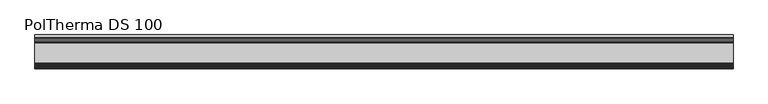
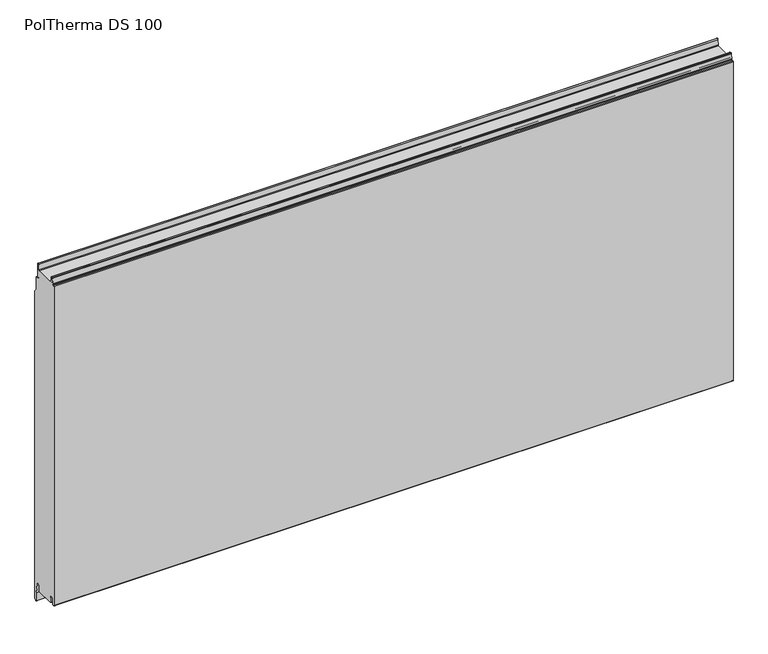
"""IFC4 building model written with IfcOpenShell, lengths in millimetres: plate geometry, Europanels_Poltherma DS_Hz : PolTherma DS 100."""

from ifc_helpers import new_model, si_unit, frame, origin, place, context, project, spatial, polyline, circle_curve, source, transform, mapped, element, save
from ifc_brep_helpers import plane_surface, cylinder_surface, revolved_surface, advanced_brep


def poltherma_ds_100_a860b07c(model_context):
    return source(origin(), model_context, "Body", "AdvancedBrep", [
        advanced_brep(
        [(1025.0, 50.0, 25.6419265), (1025.0, 50.0, 1006.0403652), (1025.0, 41.9993224, 1014.5306815), (1025.0, 41.9993224, 1053.783709), (1025.0, 39.5003388, 1056.2826927), (1025.0, 36.4964005, 1056.2826927), (1025.0, 33.9927587, 1058.7863345), (1025.0, 33.9927587, 1102.0320728), (1025.0, 31.7320949, 1104.2927366), (1025.0, 29.3625931, 1102.12865), (1025.0, 28.6828547, 1085.5928147), (1025.0, 26.3196392, 1083.2879082), (1025.0, -31.7227962, 1081.7845566), (1025.0, -33.7207985, 1083.6951741), (1025.0, -34.4459609, 1099.8739391), (1025.0, -36.4439626, 1101.784556), (1025.0, -39.1932037, 1101.784556), (1025.0, -41.1890147, 1099.9139331), (1025.0, -42.2429781, 1083.6551788), (1025.0, -44.2387891, 1081.784556), (1025.0, -48.0, 1081.784556), (1025.0, -50.0, 1079.784556), (1025.0, -50.0, 61.7823467), (1025.0, -48.0, 59.7823467), (1025.0, -45.2728415, 59.7823467), (1025.0, -43.283254, 61.5785287), (1025.0, -42.3087485, 79.5912504), (1025.0, -39.3243673, 82.2855234), (1025.0, -36.3756985, 82.2855234), (1025.0, -33.3927633, 79.6050511), (1025.0, -32.3401385, 61.3459555), (1025.0, -30.600093, 59.7823467), (1025.0, 25.1828499, 58.2823467), (1025.0, 27.6811293, 60.6896109), (1025.0, 28.3408974, 78.4636008), (1025.0, 30.834547, 80.7855234), (1025.0, 34.241537, 80.7855234), (1025.0, 36.5910205, 79.139881), (1025.0, 43.0, 46.1009555), (1025.0, 43.0, 20.9596348), (1025.0, 46.7337298, 19.9625485), (-1025.0, 50.0, 25.6419265), (-1025.0, 46.7337298, 19.9625485), (-1025.0, 43.0, 20.9596348), (-1025.0, 43.0, 46.1009555), (-1025.0, 36.5910205, 79.139881), (-1025.0, 34.241537, 80.7855234), (-1025.0, 30.834547, 80.7855234), (-1025.0, 28.3408974, 78.4636008), (-1025.0, 27.6811293, 60.6896109), (-1025.0, 25.1828499, 58.2823467), (-1025.0, -30.600093, 59.7823467), (-1025.0, -32.3401385, 61.3459555), (-1025.0, -33.3927633, 79.6050511), (-1025.0, -36.3756985, 82.2855234), (-1025.0, -39.3243673, 82.2855234), (-1025.0, -42.3087485, 79.5912504), (-1025.0, -43.283254, 61.5785287), (-1025.0, -45.2728415, 59.7823467), (-1025.0, -48.0, 59.7823467), (-1025.0, -50.0, 61.7823467), (-1025.0, -50.0, 1079.784556), (-1025.0, -48.0, 1081.784556), (-1025.0, -44.2387891, 1081.784556), (-1025.0, -42.2429781, 1083.6551788), (-1025.0, -41.1890147, 1099.9139331), (-1025.0, -39.1932037, 1101.784556), (-1025.0, -36.4439626, 1101.784556), (-1025.0, -34.4459609, 1099.8739391), (-1025.0, -33.7221833, 1083.6951728), (-1025.0, -31.7227962, 1081.7845566), (-1025.0, 26.3196392, 1083.2879082), (-1025.0, 28.6828547, 1085.5928147), (-1025.0, 29.3363956, 1102.1234406), (-1025.0, 31.7320949, 1104.2927366), (-1025.0, 33.9927587, 1102.0320728), (-1025.0, 33.9927587, 1058.7863345), (-1025.0, 36.4964005, 1056.2826927), (-1025.0, 39.5003388, 1056.2826927), (-1025.0, 41.9993224, 1053.783709), (-1025.0, 41.9993224, 1014.5306815), (-1025.0, 50.0, 1006.0403652)],
        [
            (0, 1),
            (1, 2),
            (2, 3),
            (3, 4, circle_curve(frame((1025.0, 39.5003388, 1053.783709), z_axis=(1.0, 0.0, 0.0), x_axis=(0.0, 1.0, 0.0)), 2.4989837)),
            (4, 5),
            (5, 6, circle_curve(frame((1025.0, 36.4964005, 1058.7863345), z_axis=(-1.0, 0.0, 0.0), x_axis=(0.0, 1.0, 0.0)), 2.5036418)),
            (6, 7),
            (7, 8, circle_curve(frame((1025.0, 31.7320949, 1102.0320728), z_axis=(1.0, 0.0, 0.0), x_axis=(0.0, 1.0, 0.0)), 2.2606638)),
            (8, 9, circle_curve(frame((1025.0, 31.6169847, 1102.0395223), z_axis=(1.0, 0.0, 0.0), x_axis=(0.0, 1.0, 0.0)), 2.2561527)),
            (9, 10),
            (10, 11, circle_curve(frame((1025.0, 26.1902185, 1085.784556), z_axis=(-1.0, 0.0, 0.0), x_axis=(0.0, 1.0, 0.0)), 2.5)),
            (11, 12),
            (12, 13, circle_curve(frame((1025.0, -31.7227962, 1083.7845572), z_axis=(-1.0, 0.0, 0.0), x_axis=(0.0, 1.0, 0.0)), 2.0000006)),
            (13, 14),
            (14, 15, circle_curve(frame((1025.0, -36.4439626, 1099.784556), z_axis=(1.0, 0.0, 0.0), x_axis=(0.0, 1.0, 0.0)), 2.0)),
            (15, 16),
            (16, 17, circle_curve(frame((1025.0, -39.1932037, 1099.784556), z_axis=(1.0, 0.0, 0.0), x_axis=(0.0, 1.0, 0.0)), 2.0)),
            (17, 18),
            (18, 19, circle_curve(frame((1025.0, -44.2387891, 1083.784556), z_axis=(-1.0, 0.0, 0.0), x_axis=(0.0, 1.0, 0.0)), 2.0)),
            (19, 20),
            (20, 21, circle_curve(frame((1025.0, -48.0, 1079.784556), z_axis=(1.0, 0.0, 0.0), x_axis=(0.0, 1.0, 0.0)), 2.0)),
            (21, 22),
            (22, 23, circle_curve(frame((1025.0, -48.0, 61.7823467), z_axis=(1.0, 0.0, 0.0), x_axis=(0.0, 1.0, 0.0)), 2.0)),
            (23, 24),
            (24, 25, circle_curve(frame((1025.0, -45.2728415, 61.7823467), z_axis=(1.0, 0.0, 0.0), x_axis=(0.0, 1.0, 0.0)), 2.0)),
            (25, 26),
            (26, 27, circle_curve(frame((1025.0, -39.3243673, 79.2855234), z_axis=(-1.0, 0.0, 0.0), x_axis=(0.0, 1.0, 0.0)), 3.0)),
            (27, 28),
            (28, 29, circle_curve(frame((1025.0, -36.3756985, 79.2855234), z_axis=(-1.0, 0.0, 0.0), x_axis=(0.0, 1.0, 0.0)), 3.0)),
            (29, 30),
            (30, 31, circle_curve(frame((1025.0, -30.600093, 61.5323467), z_axis=(1.0, 0.0, 0.0), x_axis=(0.0, 1.0, 0.0)), 1.75)),
            (31, 32),
            (32, 33, circle_curve(frame((1025.0, 25.1828499, 60.7823467), z_axis=(1.0, 0.0, 0.0), x_axis=(0.0, 1.0, 0.0)), 2.5)),
            (33, 34),
            (34, 35, circle_curve(frame((1025.0, 30.834547, 78.2855234), z_axis=(-1.0, 0.0, 0.0), x_axis=(0.0, 1.0, 0.0)), 2.5)),
            (35, 36),
            (36, 37, circle_curve(frame((1025.0, 34.241537, 78.2855234), z_axis=(-1.0, 0.0, 0.0), x_axis=(0.0, 1.0, 0.0)), 2.5)),
            (37, 38),
            (38, 39),
            (39, 40, circle_curve(frame((1025.0, 45.0, 20.9596348), z_axis=(1.0, 0.0, 0.0), x_axis=(0.0, 1.0, 0.0)), 2.0)),
            (40, 0),
            (41, 42),
            (42, 43, circle_curve(frame((-1025.0, 45.0, 20.9596348), z_axis=(-1.0, 0.0, 0.0), x_axis=(0.0, 1.0, 0.0)), 2.0)),
            (43, 44),
            (44, 45),
            (45, 46, circle_curve(frame((-1025.0, 34.241537, 78.2855234), z_axis=(1.0, 0.0, 0.0), x_axis=(0.0, 1.0, 0.0)), 2.5)),
            (46, 47),
            (47, 48, circle_curve(frame((-1025.0, 30.834547, 78.2855234), z_axis=(1.0, 0.0, 0.0), x_axis=(0.0, 1.0, 0.0)), 2.5)),
            (48, 49),
            (49, 50, circle_curve(frame((-1025.0, 25.1828499, 60.7823467), z_axis=(-1.0, 0.0, 0.0), x_axis=(0.0, 1.0, 0.0)), 2.5)),
            (50, 51),
            (51, 52, circle_curve(frame((-1025.0, -30.600093, 61.5323467), z_axis=(-1.0, 0.0, 0.0), x_axis=(0.0, 1.0, 0.0)), 1.75)),
            (52, 53),
            (53, 54, circle_curve(frame((-1025.0, -36.3756985, 79.2855234), z_axis=(1.0, 0.0, 0.0), x_axis=(0.0, 1.0, 0.0)), 3.0)),
            (54, 55),
            (55, 56, circle_curve(frame((-1025.0, -39.3243673, 79.2855234), z_axis=(1.0, 0.0, 0.0), x_axis=(0.0, 1.0, 0.0)), 3.0)),
            (56, 57),
            (57, 58, circle_curve(frame((-1025.0, -45.2728415, 61.7823467), z_axis=(-1.0, 0.0, 0.0), x_axis=(0.0, 1.0, 0.0)), 2.0)),
            (58, 59),
            (59, 60, circle_curve(frame((-1025.0, -48.0, 61.7823467), z_axis=(-1.0, 0.0, 0.0), x_axis=(0.0, 1.0, 0.0)), 2.0)),
            (60, 61),
            (61, 62, circle_curve(frame((-1025.0, -48.0, 1079.784556), z_axis=(-1.0, 0.0, 0.0), x_axis=(0.0, 1.0, 0.0)), 2.0)),
            (62, 63),
            (63, 64, circle_curve(frame((-1025.0, -44.2387891, 1083.784556), z_axis=(1.0, 0.0, 0.0), x_axis=(0.0, 1.0, 0.0)), 2.0)),
            (64, 65),
            (65, 66, circle_curve(frame((-1025.0, -39.1932037, 1099.784556), z_axis=(-1.0, 0.0, 0.0), x_axis=(0.0, 1.0, 0.0)), 2.0)),
            (66, 67),
            (67, 68, circle_curve(frame((-1025.0, -36.4439626, 1099.784556), z_axis=(-1.0, 0.0, 0.0), x_axis=(0.0, 1.0, 0.0)), 2.0)),
            (68, 69),
            (69, 70, circle_curve(frame((-1025.0, -31.7227962, 1083.7845572), z_axis=(1.0, 0.0, 0.0), x_axis=(0.0, 1.0, 0.0)), 2.0000006)),
            (70, 71),
            (71, 72, circle_curve(frame((-1025.0, 26.1902185, 1085.784556), z_axis=(1.0, 0.0, 0.0), x_axis=(0.0, 1.0, 0.0)), 2.5)),
            (72, 73),
            (73, 74, circle_curve(frame((-1025.0, 31.6169847, 1102.0395223), z_axis=(-1.0, 0.0, 0.0), x_axis=(0.0, 1.0, 0.0)), 2.2561527)),
            (74, 75, circle_curve(frame((-1025.0, 31.7320949, 1102.0320728), z_axis=(-1.0, 0.0, 0.0), x_axis=(0.0, 1.0, 0.0)), 2.2606638)),
            (75, 76),
            (76, 77, circle_curve(frame((-1025.0, 36.4964005, 1058.7863345), z_axis=(1.0, 0.0, 0.0), x_axis=(0.0, 1.0, 0.0)), 2.5036418)),
            (77, 78),
            (78, 79, circle_curve(frame((-1025.0, 39.5003388, 1053.783709), z_axis=(-1.0, 0.0, 0.0), x_axis=(0.0, 1.0, 0.0)), 2.4989837)),
            (79, 80),
            (80, 81),
            (81, 41),
            (0, 41),
            (81, 1),
            (80, 2),
            (79, 3),
            (78, 4),
            (77, 5),
            (76, 6),
            (75, 7),
            (74, 8),
            (73, 9),
            (72, 10),
            (71, 11),
            (70, 12),
            (69, 13),
            (68, 14),
            (67, 15),
            (66, 16),
            (65, 17),
            (64, 18),
            (63, 19),
            (62, 20),
            (61, 21),
            (60, 22),
            (59, 23),
            (58, 24),
            (57, 25),
            (56, 26),
            (55, 27),
            (54, 28),
            (53, 29),
            (52, 30),
            (51, 31),
            (50, 32),
            (49, 33),
            (48, 34),
            (47, 35),
            (46, 36),
            (45, 37),
            (44, 38),
            (43, 39),
            (42, 40),
        ],
        [
            plane_surface(frame((1025.0, 50.0, 1006.0403652), z_axis=(1.0, 0.0, 0.0), x_axis=(0.0, 0.0, 1.0))),
            plane_surface(frame((-1025.0, 50.0, 1006.0403652), z_axis=(-1.0, 0.0, 0.0), x_axis=(0.0, 0.0, -1.0))),
            plane_surface(frame((1025.0, 50.0, 25.6419265), z_axis=(0.0, 1.0, 0.0), x_axis=(-1.0, 0.0, 0.0))),
            plane_surface(frame((1025.0, 50.0, 1006.0403652), z_axis=(0.0, 0.7277809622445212, 0.6858096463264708), x_axis=(-1.0, 0.0, 0.0))),
            plane_surface(frame((1025.0, 41.9993224, 1014.5306815), z_axis=(0.0, 1.0, 0.0), x_axis=(-1.0, 0.0, 0.0))),
            cylinder_surface(frame((-1025.0, 39.5003388, 1053.783709), z_axis=(1.0, 0.0, 0.0), x_axis=(0.0, 1.0, 0.0)), 2.4989837),
            plane_surface(frame((1025.0, 39.5003388, 1056.2826927), z_axis=(0.0, 0.0, 1.0), x_axis=(-1.0, 0.0, 0.0))),
            revolved_surface(polyline([(-1025.0, 39.0000423, 1058.7863345), (1025.0, 39.0000423, 1058.7863345)]), (-1025.0, 36.4964005, 1058.7863345), (-1.0, 0.0, 0.0)),
            plane_surface(frame((1025.0, 33.9927587, 1058.7863345), z_axis=(0.0, 1.0, 0.0), x_axis=(-1.0, 0.0, 0.0))),
            cylinder_surface(frame((-1025.0, 31.7320949, 1102.0320728), z_axis=(1.0, 0.0, 0.0), x_axis=(0.0, 1.0, 0.0)), 2.2606638),
            cylinder_surface(frame((-1025.0, 31.6169847, 1102.0395223), z_axis=(1.0, 0.0, 0.0), x_axis=(0.0, 1.0, 0.0)), 2.2561527),
            plane_surface(frame((1025.0, 29.3363956, 1102.1234406), z_axis=(0.0, -0.9992194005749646, 0.03950429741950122), x_axis=(-1.0, 0.0, 0.0))),
            revolved_surface(polyline([(-1025.0, 28.6902185, 1085.784556), (1025.0, 28.6902185, 1085.784556)]), (-1025.0, 26.1902185, 1085.784556), (-1.0, 0.0, 0.0)),
            plane_surface(frame((1025.0, 26.3196392, 1083.2879082), z_axis=(0.0, -0.02589222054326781, 0.9996647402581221), x_axis=(-1.0, 0.0, 0.0))),
            revolved_surface(polyline([(-1025.0, -29.7227956, 1083.7845572), (1025.0, -29.7227956, 1083.7845572)]), (-1025.0, -31.7227962, 1083.7845572), (-1.0, 0.0, 0.0)),
            plane_surface(frame((1025.0, -33.7221833, 1083.6951728), z_axis=(0.0, 0.9990008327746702, 0.04469156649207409), x_axis=(-1.0, 0.0, 0.0))),
            cylinder_surface(frame((-1025.0, -36.4439626, 1099.784556), z_axis=(1.0, 0.0, 0.0), x_axis=(0.0, 1.0, 0.0)), 2.0),
            plane_surface(frame((1025.0, -36.4439626, 1101.784556), z_axis=(0.0, 0.0, 1.0), x_axis=(-1.0, 0.0, 0.0))),
            cylinder_surface(frame((-1025.0, -39.1932037, 1099.784556), z_axis=(1.0, 0.0, 0.0), x_axis=(0.0, 1.0, 0.0)), 2.0),
            plane_surface(frame((1025.0, -41.1890147, 1099.9139331), z_axis=(0.0, -0.9979054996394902, 0.0646885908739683), x_axis=(-1.0, 0.0, 0.0))),
            revolved_surface(polyline([(-1025.0, -42.2387891, 1083.784556), (1025.0, -42.2387891, 1083.784556)]), (-1025.0, -44.2387891, 1083.784556), (-1.0, 0.0, 0.0)),
            plane_surface(frame((1025.0, -44.2387891, 1081.784556), z_axis=(0.0, 0.0, 1.0), x_axis=(-1.0, 0.0, 0.0))),
            cylinder_surface(frame((-1025.0, -48.0, 1079.784556), z_axis=(1.0, 0.0, 0.0), x_axis=(0.0, 1.0, 0.0)), 2.0),
            plane_surface(frame((1025.0, -50.0, 1079.784556), z_axis=(0.0, -1.0, 0.0), x_axis=(-1.0, 0.0, 0.0))),
            cylinder_surface(frame((-1025.0, -48.0, 61.7823467), z_axis=(1.0, 0.0, 0.0), x_axis=(0.0, 1.0, 0.0)), 2.0),
            plane_surface(frame((1025.0, -48.0, 59.7823467), z_axis=(0.0, 6.948688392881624e-12, -1.0), x_axis=(-1.0, 0.0, 0.0))),
            cylinder_surface(frame((-1025.0, -45.2728415, 61.7823467), z_axis=(1.0, 0.0, 0.0), x_axis=(0.0, 1.0, 0.0)), 2.0),
            plane_surface(frame((1025.0, -43.283254, 61.5785287), z_axis=(0.0, 0.9985397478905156, -0.054021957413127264), x_axis=(-1.0, 0.0, 0.0))),
            revolved_surface(polyline([(-1025.0, -36.3243673, 79.2855234), (1025.0, -36.3243673, 79.2855234)]), (-1025.0, -39.3243673, 79.2855234), (-1.0, 0.0, 0.0)),
            plane_surface(frame((1025.0, -39.3243673, 82.2855234), z_axis=(0.0, 0.0, -1.0), x_axis=(-1.0, 0.0, 0.0))),
            revolved_surface(polyline([(-1025.0, -33.3756985, 79.2855234), (1025.0, -33.3756985, 79.2855234)]), (-1025.0, -36.3756985, 79.2855234), (-1.0, 0.0, 0.0)),
            plane_surface(frame((1025.0, -33.3927633, 79.6050511), z_axis=(0.0, -0.9983424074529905, -0.05755377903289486), x_axis=(-1.0, 0.0, 0.0))),
            cylinder_surface(frame((-1025.0, -30.600093, 61.5323467), z_axis=(1.0, 0.0, 0.0), x_axis=(0.0, 1.0, 0.0)), 1.75),
            plane_surface(frame((1025.0, -30.600093, 59.7823467), z_axis=(0.0, -0.026880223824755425, -0.99963866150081), x_axis=(-1.0, 0.0, 0.0))),
            cylinder_surface(frame((-1025.0, 25.1828499, 60.7823467), z_axis=(1.0, 0.0, 0.0), x_axis=(0.0, 1.0, 0.0)), 2.5),
            plane_surface(frame((1025.0, 27.6811293, 60.6896109), z_axis=(0.0, 0.9993117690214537, -0.037094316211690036), x_axis=(-1.0, 0.0, 0.0))),
            revolved_surface(polyline([(-1025.0, 33.334547, 78.2855234), (1025.0, 33.334547, 78.2855234)]), (-1025.0, 30.834547, 78.2855234), (-1.0, 0.0, 0.0)),
            plane_surface(frame((1025.0, 30.834547, 80.7855234), z_axis=(0.0, 0.0, -1.0), x_axis=(-1.0, 0.0, 0.0))),
            revolved_surface(polyline([(-1025.0, 36.741537, 78.2855234), (1025.0, 36.741537, 78.2855234)]), (-1025.0, 34.241537, 78.2855234), (-1.0, 0.0, 0.0)),
            plane_surface(frame((1025.0, 36.5910205, 79.139881), z_axis=(0.0, -0.981700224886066, -0.19043284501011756), x_axis=(-1.0, 0.0, 0.0))),
            plane_surface(frame((1025.0, 43.0, 46.1009555), z_axis=(0.0, -1.0, 0.0), x_axis=(-1.0, 0.0, 0.0))),
            cylinder_surface(frame((-1025.0, 45.0, 20.9596348), z_axis=(1.0, 0.0, 0.0), x_axis=(0.0, 1.0, 0.0)), 2.0),
            plane_surface(frame((1025.0, 46.7337298, 19.9625485), z_axis=(0.0, 0.8668648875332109, -0.49854314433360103), x_axis=(-1.0, 0.0, 0.0))),
        ],
        [
            (0, [[1, 2, 3, 4, 5, 6, 7, 8, 9, 10, 11, 12, 13, 14, 15, 16, 17, 18, 19, 20, 21, 22, 23, 24, 25, 26, 27, 28, 29, 30, 31, 32, 33, 34, 35, 36, 37, 38, 39, 40, 41]]),
            (1, [[42, 43, 44, 45, 46, 47, 48, 49, 50, 51, 52, 53, 54, 55, 56, 57, 58, 59, 60, 61, 62, 63, 64, 65, 66, 67, 68, 69, 70, 71, 72, 73, 74, 75, 76, 77, 78, 79, 80, 81, 82]]),
            (2, [[-1, 83, -82, 84]]),
            (3, [[-2, -84, -81, 85]]),
            (4, [[-3, -85, -80, 86]]),
            (5, [[-4, -86, -79, 87]]),
            (6, [[-5, -87, -78, 88]]),
            (7, [[-6, -88, -77, 89]]),
            (8, [[-7, -89, -76, 90]]),
            (9, [[-8, -90, -75, 91]]),
            (10, [[-9, -91, -74, 92]]),
            (11, [[-10, -92, -73, 93]]),
            (12, [[-11, -93, -72, 94]]),
            (13, [[-12, -94, -71, 95]]),
            (14, [[-13, -95, -70, 96]]),
            (15, [[-14, -96, -69, 97]]),
            (16, [[-15, -97, -68, 98]]),
            (17, [[-16, -98, -67, 99]]),
            (18, [[-17, -99, -66, 100]]),
            (19, [[-18, -100, -65, 101]]),
            (20, [[-19, -101, -64, 102]]),
            (21, [[-20, -102, -63, 103]]),
            (22, [[-21, -103, -62, 104]]),
            (23, [[-22, -104, -61, 105]]),
            (24, [[-23, -105, -60, 106]]),
            (25, [[-24, -106, -59, 107]]),
            (26, [[-25, -107, -58, 108]]),
            (27, [[-26, -108, -57, 109]]),
            (28, [[-27, -109, -56, 110]]),
            (29, [[-28, -110, -55, 111]]),
            (30, [[-29, -111, -54, 112]]),
            (31, [[-30, -112, -53, 113]]),
            (32, [[-31, -113, -52, 114]]),
            (33, [[-32, -114, -51, 115]]),
            (34, [[-33, -115, -50, 116]]),
            (35, [[-34, -116, -49, 117]]),
            (36, [[-35, -117, -48, 118]]),
            (37, [[-36, -118, -47, 119]]),
            (38, [[-37, -119, -46, 120]]),
            (39, [[-38, -120, -45, 121]]),
            (40, [[-39, -121, -44, 122]]),
            (41, [[-40, -122, -43, 123]]),
            (42, [[-41, -123, -42, -83]]),
        ],
    ),
    ])


if __name__ == "__main__":
    model = new_model("IFC4")
    model_context = context("Model", 3, world=origin())
    ifc_project = project(units=[si_unit("LENGTHUNIT", "METRE", prefix="MILLI")], contexts=[model_context])
    site = spatial("IfcSite", under=ifc_project)
    building = spatial("IfcBuilding", under=site)
    placement = place(None, origin())
    poltherma_ds_100_shape = poltherma_ds_100_a860b07c(model_context)
    element("IfcPlate", 1, ObjectType="Europanels_Poltherma DS_Hz : PolTherma DS 100", at=placement, inside=building, context=model_context, shape_type="MappedRepresentation", body=[
        mapped(poltherma_ds_100_shape, transform((0.0, 0.0, 0.0), x_axis=(1.0, 0.0, 0.0), y_axis=(0.0, 1.0, 0.0), z_axis=(0.0, 0.0, 1.0))),
    ])
    save(model, "model.ifc")
